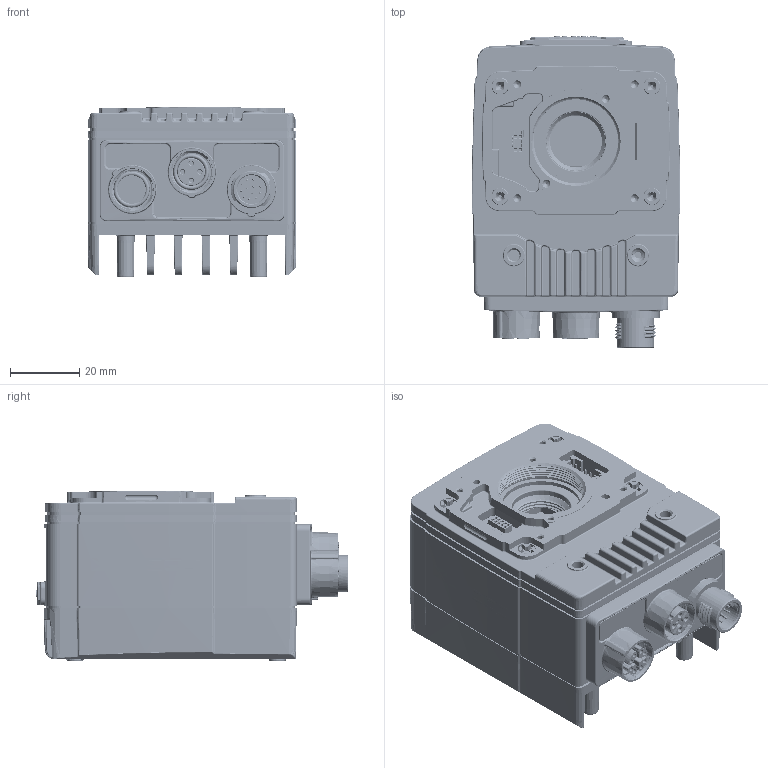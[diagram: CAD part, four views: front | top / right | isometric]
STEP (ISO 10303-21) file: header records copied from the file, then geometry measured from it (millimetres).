
FILE_DESCRIPTION (( 'STEP AP214' ), '1' );
FILE_NAME ('IS016-09_3-21-18.STEP', '2018-03-30T18:17:00', ( 'Cognoid' ), ( 'Microsoft' ), 'SwSTEP 2.0', 'SolidWorks 2017', '' );
FILE_SCHEMA (( 'AUTOMOTIVE_DESIGN' ));
Length unit declared in the file: millimetre
Products named in the file (1): IS016-09_3-21-18
Bounding box: 60.5 x 90.39 x 49.35 mm (x, y, z)
Volume: 160154.9 mm3; surface area: 47513.6 mm2
Topology: 4 solids, 52 shells, 5493 faces, 14386 edges, 9132 vertices
Faces by surface type: plane 2032, cylinder 1544, bspline 1325, cone 306, torus 218, sphere 68
Entity records: 303082 total; most frequent: CARTESIAN_POINT 133300, ORIENTED_EDGE 28568, DIRECTION 22193, EDGE_CURVE 14284, VERTEX_POINT 9132, AXIS2_PLACEMENT_3D 7857, LINE 6479, VECTOR 6479
